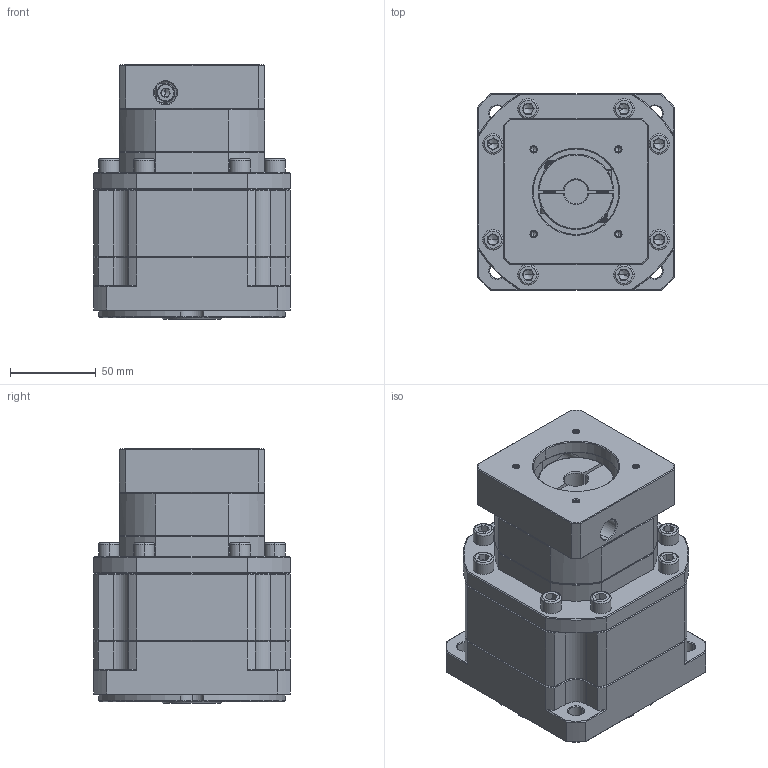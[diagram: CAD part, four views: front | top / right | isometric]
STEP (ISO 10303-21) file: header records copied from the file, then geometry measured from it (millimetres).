
FILE_DESCRIPTION (( 'STEP AP214' ), '1' );
FILE_NAME ('ZB115A-K25-L2-14-50-70-M4.step', '2023-03-03T09:57:22', ( '' ), ( 'Microsoft' ), 'SwSTEP 2.0', 'SolidWorks 2016', '' );
FILE_SCHEMA (( 'AUTOMOTIVE_DESIGN' ));
Length unit declared in the file: millimetre
Products named in the file (1): ZB115A-K25-L2-14-50-70-M4
Bounding box: 115 x 115 x 149 mm (x, y, z)
Volume: 1333139.1 mm3; surface area: 130595.9 mm2
Topology: 5 solids, 6 shells, 2078 faces, 5388 edges, 3407 vertices
Faces by surface type: plane 999, cylinder 385, cone 359, bspline 335
Entity records: 104659 total; most frequent: CARTESIAN_POINT 33806, ORIENTED_EDGE 10704, DIRECTION 8781, EDGE_CURVE 5352, VERTEX_POINT 3407, VECTOR 3349, LINE 3349, AXIS2_PLACEMENT_3D 2716
